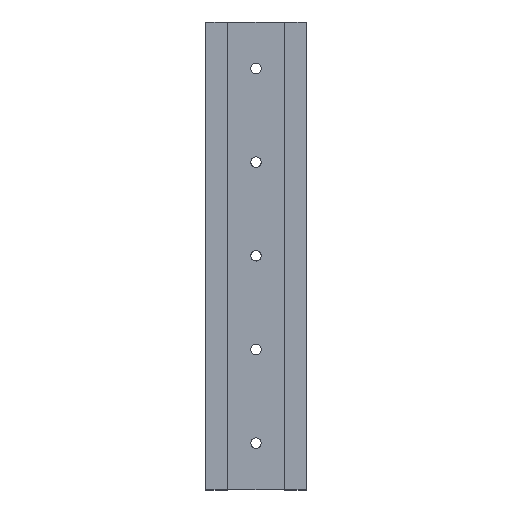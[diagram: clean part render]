
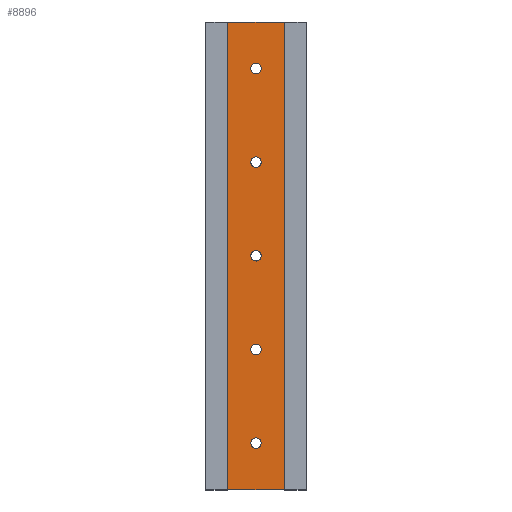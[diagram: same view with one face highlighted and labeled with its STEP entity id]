
A CAD part, top view. The second image highlights one B-rep face of the part: STEP entity #8896.
In plain terms, the highlighted planar face has unit normal (0, 0, 1).
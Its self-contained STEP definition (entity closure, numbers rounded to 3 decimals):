
#407 = FACE_BOUND ( 'NONE', #5390, .T. ) ;
#571 = EDGE_CURVE ( 'Defeatured_0_54+Defeatured_0_19+Defeatured_0_55+Defeatured_0_55', #1006, #21045, #14591, .T. ) ;
#856 = AXIS2_PLACEMENT_3D ( 'NONE', #3886, #8916, #18952 ) ;
#1006 = VERTEX_POINT ( 'NONE', #18861 ) ;
#1343 = AXIS2_PLACEMENT_3D ( 'NONE', #5145, #18682, #2185 ) ;
#1642 = LINE ( 'NONE', #6880, #6217 ) ;
#1667 = CARTESIAN_POINT ( 'NONE',  ( 109.306, 225.26, 179.087 ) ) ;
#1718 = CARTESIAN_POINT ( 'NONE',  ( 102.506, 165.26, 179.087 ) ) ;
#1847 = ORIENTED_EDGE ( 'NONE', *, *, #17703, .T. ) ;
#2185 = DIRECTION ( 'NONE',  ( 1., 0., 0. ) ) ;
#2273 = DIRECTION ( 'NONE',  ( 0., 0., 1. ) ) ;
#2569 = DIRECTION ( 'NONE',  ( 1., 0., 0. ) ) ;
#2617 = DIRECTION ( 'NONE',  ( 1., 0., 0. ) ) ;
#3119 = CIRCLE ( 'NONE', #17758, 3.4 ) ;
#3136 = EDGE_CURVE ( 'Defeatured_0_40+Defeatured_0_19+Defeatured_0_41+Defeatured_0_41', #20227, #17282, #20503, .T. ) ;
#3207 = CARTESIAN_POINT ( 'NONE',  ( 124.156, 255.01, 179.087 ) ) ;
#3227 = CIRCLE ( 'NONE', #9490, 3.4 ) ;
#3292 = ORIENTED_EDGE ( 'NONE', *, *, #19048, .F. ) ;
#3431 = AXIS2_PLACEMENT_3D ( 'NONE', #12135, #8889, #20672 ) ;
#3538 = DIRECTION ( 'NONE',  ( 0., 0., 1. ) ) ;
#3568 = VERTEX_POINT ( 'NONE', #16013 ) ;
#3816 = VECTOR ( 'NONE', #10074, 1000. ) ;
#3886 = CARTESIAN_POINT ( 'NONE',  ( 105.906, 225.26, 179.087 ) ) ;
#3913 = DIRECTION ( 'NONE',  ( 1., 0., 0. ) ) ;
#4061 = DIRECTION ( 'NONE',  ( 0., 0., 1. ) ) ;
#4105 = CARTESIAN_POINT ( 'NONE',  ( 87.656, 255.01, 179.087 ) ) ;
#4347 = ORIENTED_EDGE ( 'NONE', *, *, #6890, .F. ) ;
#4390 = EDGE_LOOP ( 'NONE', ( #15846, #8369 ) ) ;
#4542 = EDGE_CURVE ( 'Defeatured_0_26+Defeatured_0_19+Defeatured_0_27+Defeatured_0_27', #3568, #19646, #14337, .T. ) ;
#4552 = ORIENTED_EDGE ( 'NONE', *, *, #571, .F. ) ;
#4630 = CIRCLE ( 'NONE', #18595, 3.4 ) ;
#4931 = AXIS2_PLACEMENT_3D ( 'NONE', #18381, #3538, #11712 ) ;
#5024 = EDGE_CURVE ( 'Defeatured_0_7+Defeatured_0_19+Defeatured_0_10+Defeatured_0_8', #14399, #10816, #1642, .T. ) ;
#5145 = CARTESIAN_POINT ( 'NONE',  ( 105.906, 105.26, 179.087 ) ) ;
#5390 = EDGE_LOOP ( 'NONE', ( #4552, #5559 ) ) ;
#5400 = VECTOR ( 'NONE', #20701, 1000. ) ;
#5559 = ORIENTED_EDGE ( 'NONE', *, *, #20558, .F. ) ;
#6217 = VECTOR ( 'NONE', #14854, 1000. ) ;
#6880 = CARTESIAN_POINT ( 'NONE',  ( 87.656, -44.49, 179.087 ) ) ;
#6890 = EDGE_CURVE ( 'Defeatured_0_69+Defeatured_0_19+Defeatured_0_68+Defeatured_0_68', #18317, #13450, #14318, .T. ) ;
#6898 = VERTEX_POINT ( 'NONE', #15801 ) ;
#7214 = LINE ( 'NONE', #3207, #3816 ) ;
#7306 = EDGE_CURVE ( 'Defeatured_0_83+Defeatured_0_19+Defeatured_0_82+Defeatured_0_82', #15445, #6898, #3119, .T. ) ;
#7366 = DIRECTION ( 'NONE',  ( 0., 0., 1. ) ) ;
#7528 = DIRECTION ( 'NONE',  ( 0., 0., 1. ) ) ;
#7589 = ORIENTED_EDGE ( 'NONE', *, *, #8425, .F. ) ;
#7646 = EDGE_LOOP ( 'NONE', ( #20354, #4347 ) ) ;
#7863 = LINE ( 'NONE', #16475, #10187 ) ;
#8072 = DIRECTION ( 'NONE',  ( 1., 0., 0. ) ) ;
#8369 = ORIENTED_EDGE ( 'NONE', *, *, #17519, .F. ) ;
#8425 = EDGE_CURVE ( 'Defeatured_0_1+Defeatured_0_19+Defeatured_0_4+Defeatured_0_2', #12214, #16050, #7214, .T. ) ;
#8848 = EDGE_LOOP ( 'NONE', ( #14359, #18369, #1847, #7589 ) ) ;
#8889 = DIRECTION ( 'NONE',  ( 0., 0., 1. ) ) ;
#8896 = ADVANCED_FACE ( 'Defeatured_0_19', ( #15374, #20404, #407, #12192, #15483, #18866 ), #9149, .T. ) ;
#8916 = DIRECTION ( 'NONE',  ( 0., 0., 1. ) ) ;
#9000 = CARTESIAN_POINT ( 'NONE',  ( 105.906, 105.26, 179.087 ) ) ;
#9149 = PLANE ( 'NONE',  #16381 ) ;
#9342 = EDGE_CURVE ( 'Defeatured_0_82+Defeatured_0_19+Defeatured_0_83+Defeatured_0_83', #6898, #15445, #10409, .T. ) ;
#9446 = CARTESIAN_POINT ( 'NONE',  ( 87.656, 255.01, 179.087 ) ) ;
#9490 = AXIS2_PLACEMENT_3D ( 'NONE', #14097, #4061, #13989 ) ;
#9579 = CARTESIAN_POINT ( 'NONE',  ( 105.906, 165.26, 179.087 ) ) ;
#9588 = ORIENTED_EDGE ( 'NONE', *, *, #3136, .F. ) ;
#9590 = EDGE_LOOP ( 'NONE', ( #9588, #3292 ) ) ;
#9856 = CIRCLE ( 'NONE', #19973, 3.4 ) ;
#10074 = DIRECTION ( 'NONE',  ( 0., -1., 0. ) ) ;
#10187 = VECTOR ( 'NONE', #8072, 1000. ) ;
#10409 = CIRCLE ( 'NONE', #856, 3.4 ) ;
#10633 = EDGE_CURVE ( 'Defeatured_0_17+Defeatured_0_19+Defeatured_0_8+Defeatured_0_4', #10816, #12214, #10754, .T. ) ;
#10754 = LINE ( 'NONE', #4105, #5400 ) ;
#10793 = CARTESIAN_POINT ( 'NONE',  ( 105.906, 165.26, 179.087 ) ) ;
#10816 = VERTEX_POINT ( 'NONE', #9446 ) ;
#10971 = CARTESIAN_POINT ( 'NONE',  ( 105.906, 225.26, 179.087 ) ) ;
#11084 = DIRECTION ( 'NONE',  ( 1., 0., 0. ) ) ;
#11296 = CARTESIAN_POINT ( 'NONE',  ( 102.506, 45.26, 179.087 ) ) ;
#11368 = CARTESIAN_POINT ( 'NONE',  ( 105.906, 45.26, 179.087 ) ) ;
#11712 = DIRECTION ( 'NONE',  ( 1., 0., 0. ) ) ;
#12135 = CARTESIAN_POINT ( 'NONE',  ( 105.906, 45.26, 179.087 ) ) ;
#12192 = FACE_BOUND ( 'NONE', #9590, .T. ) ;
#12214 = VERTEX_POINT ( 'NONE', #20358 ) ;
#12230 = AXIS2_PLACEMENT_3D ( 'NONE', #9579, #20928, #11084 ) ;
#12659 = EDGE_LOOP ( 'NONE', ( #17817, #17491 ) ) ;
#13158 = EDGE_CURVE ( 'Defeatured_0_68+Defeatured_0_19+Defeatured_0_69+Defeatured_0_69', #13450, #18317, #20045, .T. ) ;
#13450 = VERTEX_POINT ( 'NONE', #1718 ) ;
#13769 = CARTESIAN_POINT ( 'NONE',  ( 87.656, -44.49, 179.087 ) ) ;
#13989 = DIRECTION ( 'NONE',  ( 1., 0., 0. ) ) ;
#14020 = DIRECTION ( 'NONE',  ( 1., 0., 0. ) ) ;
#14097 = CARTESIAN_POINT ( 'NONE',  ( 105.906, -14.74, 179.087 ) ) ;
#14148 = CARTESIAN_POINT ( 'NONE',  ( 109.306, 165.26, 179.087 ) ) ;
#14318 = CIRCLE ( 'NONE', #12230, 3.4 ) ;
#14337 = CIRCLE ( 'NONE', #4931, 3.4 ) ;
#14359 = ORIENTED_EDGE ( 'NONE', *, *, #10633, .F. ) ;
#14399 = VERTEX_POINT ( 'NONE', #13769 ) ;
#14437 = CARTESIAN_POINT ( 'NONE',  ( 109.306, 45.26, 179.087 ) ) ;
#14591 = CIRCLE ( 'NONE', #1343, 3.4 ) ;
#14854 = DIRECTION ( 'NONE',  ( 0., 1., 0. ) ) ;
#15374 = FACE_BOUND ( 'NONE', #12659, .T. ) ;
#15387 = DIRECTION ( 'NONE',  ( 0., 0., 1. ) ) ;
#15445 = VERTEX_POINT ( 'NONE', #1667 ) ;
#15483 = FACE_BOUND ( 'NONE', #4390, .T. ) ;
#15800 = CARTESIAN_POINT ( 'NONE',  ( 87.656, -44.49, 179.087 ) ) ;
#15801 = CARTESIAN_POINT ( 'NONE',  ( 102.506, 225.26, 179.087 ) ) ;
#15846 = ORIENTED_EDGE ( 'NONE', *, *, #4542, .F. ) ;
#16013 = CARTESIAN_POINT ( 'NONE',  ( 102.506, -14.74, 179.087 ) ) ;
#16050 = VERTEX_POINT ( 'NONE', #16066 ) ;
#16066 = CARTESIAN_POINT ( 'NONE',  ( 124.156, -44.49, 179.087 ) ) ;
#16381 = AXIS2_PLACEMENT_3D ( 'NONE', #15800, #2273, #3913 ) ;
#16475 = CARTESIAN_POINT ( 'NONE',  ( 87.656, -44.49, 179.087 ) ) ;
#16486 = CARTESIAN_POINT ( 'NONE',  ( 109.306, 105.26, 179.087 ) ) ;
#17282 = VERTEX_POINT ( 'NONE', #14437 ) ;
#17491 = ORIENTED_EDGE ( 'NONE', *, *, #7306, .F. ) ;
#17519 = EDGE_CURVE ( 'Defeatured_0_27+Defeatured_0_19+Defeatured_0_26+Defeatured_0_26', #19646, #3568, #3227, .T. ) ;
#17531 = DIRECTION ( 'NONE',  ( 0., 0., 1. ) ) ;
#17703 = EDGE_CURVE ( 'Defeatured_0_19+Defeatured_0_18+Defeatured_0_7+Defeatured_0_1', #14399, #16050, #7863, .T. ) ;
#17758 = AXIS2_PLACEMENT_3D ( 'NONE', #10971, #17531, #2569 ) ;
#17817 = ORIENTED_EDGE ( 'NONE', *, *, #9342, .F. ) ;
#18025 = DIRECTION ( 'NONE',  ( 1., 0., 0. ) ) ;
#18317 = VERTEX_POINT ( 'NONE', #14148 ) ;
#18369 = ORIENTED_EDGE ( 'NONE', *, *, #5024, .F. ) ;
#18381 = CARTESIAN_POINT ( 'NONE',  ( 105.906, -14.74, 179.087 ) ) ;
#18595 = AXIS2_PLACEMENT_3D ( 'NONE', #9000, #7366, #14020 ) ;
#18682 = DIRECTION ( 'NONE',  ( 0., 0., 1. ) ) ;
#18861 = CARTESIAN_POINT ( 'NONE',  ( 102.506, 105.26, 179.087 ) ) ;
#18866 = FACE_OUTER_BOUND ( 'NONE', #8848, .T. ) ;
#18952 = DIRECTION ( 'NONE',  ( 1., 0., 0. ) ) ;
#18964 = CARTESIAN_POINT ( 'NONE',  ( 109.306, -14.74, 179.087 ) ) ;
#19048 = EDGE_CURVE ( 'Defeatured_0_41+Defeatured_0_19+Defeatured_0_40+Defeatured_0_40', #17282, #20227, #9856, .T. ) ;
#19646 = VERTEX_POINT ( 'NONE', #18964 ) ;
#19973 = AXIS2_PLACEMENT_3D ( 'NONE', #11368, #15387, #18025 ) ;
#20045 = CIRCLE ( 'NONE', #20737, 3.4 ) ;
#20227 = VERTEX_POINT ( 'NONE', #11296 ) ;
#20354 = ORIENTED_EDGE ( 'NONE', *, *, #13158, .F. ) ;
#20358 = CARTESIAN_POINT ( 'NONE',  ( 124.156, 255.01, 179.087 ) ) ;
#20404 = FACE_BOUND ( 'NONE', #7646, .T. ) ;
#20503 = CIRCLE ( 'NONE', #3431, 3.4 ) ;
#20558 = EDGE_CURVE ( 'Defeatured_0_55+Defeatured_0_19+Defeatured_0_54+Defeatured_0_54', #21045, #1006, #4630, .T. ) ;
#20672 = DIRECTION ( 'NONE',  ( 1., 0., 0. ) ) ;
#20701 = DIRECTION ( 'NONE',  ( 1., 0., 0. ) ) ;
#20737 = AXIS2_PLACEMENT_3D ( 'NONE', #10793, #7528, #2617 ) ;
#20928 = DIRECTION ( 'NONE',  ( 0., 0., 1. ) ) ;
#21045 = VERTEX_POINT ( 'NONE', #16486 ) ;
